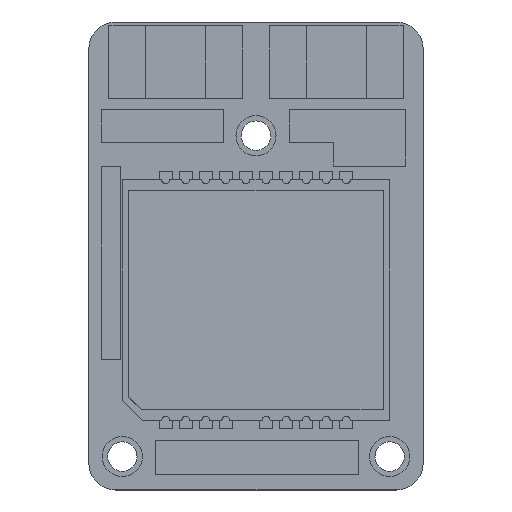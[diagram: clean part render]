
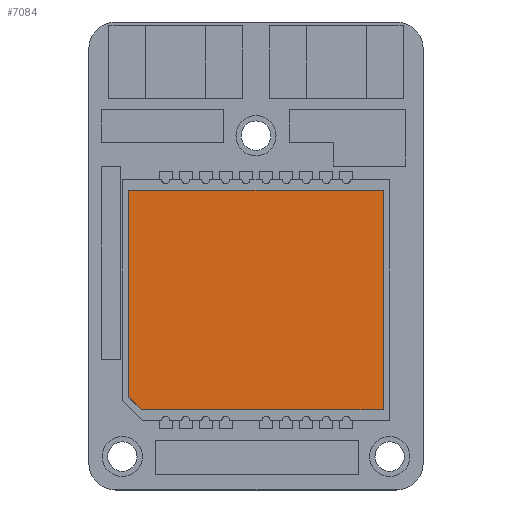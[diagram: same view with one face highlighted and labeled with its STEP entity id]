
A CAD part, top view. The second image highlights one B-rep face of the part: STEP entity #7084.
In plain terms, the highlighted planar face has unit normal (0, 0, 1).
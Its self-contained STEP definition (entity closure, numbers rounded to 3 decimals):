
#203 = CARTESIAN_POINT ( 'NONE',  ( -0.123, -2.615, 3.03 ) ) ;
#286 = CARTESIAN_POINT ( 'NONE',  ( -9.623, -10.815, 3.03 ) ) ;
#927 = VECTOR ( 'NONE', #8562, 1000. ) ;
#1135 = EDGE_LOOP ( 'NONE', ( #9945, #4745, #8568, #11177, #2551 ) ) ;
#1209 = DIRECTION ( 'NONE',  ( 1., 0., 0. ) ) ;
#1352 = PLANE ( 'NONE',  #8801 ) ;
#1924 = VERTEX_POINT ( 'NONE', #2919 ) ;
#2551 = ORIENTED_EDGE ( 'NONE', *, *, #8912, .F. ) ;
#2878 = VERTEX_POINT ( 'NONE', #203 ) ;
#2919 = CARTESIAN_POINT ( 'NONE',  ( -19.123, -18.056, 3.03 ) ) ;
#3225 = CARTESIAN_POINT ( 'NONE',  ( -18.165, -19.015, 3.03 ) ) ;
#3512 = VECTOR ( 'NONE', #8745, 1000. ) ;
#3639 = LINE ( 'NONE', #11325, #927 ) ;
#3649 = LINE ( 'NONE', #9767, #4519 ) ;
#3864 = VERTEX_POINT ( 'NONE', #10650 ) ;
#3893 = EDGE_CURVE ( 'NONE', #1924, #3864, #10900, .T. ) ;
#4364 = DIRECTION ( 'NONE',  ( 0., -1., 0. ) ) ;
#4519 = VECTOR ( 'NONE', #4364, 1000. ) ;
#4745 = ORIENTED_EDGE ( 'NONE', *, *, #11873, .T. ) ;
#4796 = CARTESIAN_POINT ( 'NONE',  ( -9.623, -2.615, 3.03 ) ) ;
#5001 = DIRECTION ( 'NONE',  ( 0., 0., 1. ) ) ;
#5740 = CARTESIAN_POINT ( 'NONE',  ( -0.123, -19.015, 3.03 ) ) ;
#5955 = CARTESIAN_POINT ( 'NONE',  ( -9.623, -19.015, 3.03 ) ) ;
#5965 = LINE ( 'NONE', #5955, #3512 ) ;
#6052 = EDGE_CURVE ( 'NONE', #7280, #6531, #5965, .T. ) ;
#6531 = VERTEX_POINT ( 'NONE', #5740 ) ;
#6937 = DIRECTION ( 'NONE',  ( 0., 1., 0. ) ) ;
#7084 = ADVANCED_FACE ( 'NONE', ( #7587 ), #1352, .T. ) ;
#7280 = VERTEX_POINT ( 'NONE', #3225 ) ;
#7298 = LINE ( 'NONE', #4796, #7315 ) ;
#7315 = VECTOR ( 'NONE', #1209, 1000. ) ;
#7587 = FACE_OUTER_BOUND ( 'NONE', #1135, .T. ) ;
#8286 = VECTOR ( 'NONE', #6937, 1000. ) ;
#8562 = DIRECTION ( 'NONE',  ( 0.707, -0.707, 0. ) ) ;
#8568 = ORIENTED_EDGE ( 'NONE', *, *, #6052, .T. ) ;
#8745 = DIRECTION ( 'NONE',  ( 1., 0., 0. ) ) ;
#8801 = AXIS2_PLACEMENT_3D ( 'NONE', #286, #5001, #11474 ) ;
#8912 = EDGE_CURVE ( 'NONE', #3864, #2878, #7298, .T. ) ;
#9767 = CARTESIAN_POINT ( 'NONE',  ( -0.123, -10.815, 3.03 ) ) ;
#9945 = ORIENTED_EDGE ( 'NONE', *, *, #3893, .F. ) ;
#10602 = CARTESIAN_POINT ( 'NONE',  ( -19.123, -10.815, 3.03 ) ) ;
#10650 = CARTESIAN_POINT ( 'NONE',  ( -19.123, -2.615, 3.03 ) ) ;
#10900 = LINE ( 'NONE', #10602, #8286 ) ;
#11028 = EDGE_CURVE ( 'NONE', #2878, #6531, #3649, .T. ) ;
#11177 = ORIENTED_EDGE ( 'NONE', *, *, #11028, .F. ) ;
#11325 = CARTESIAN_POINT ( 'NONE',  ( -17.994, -19.185, 3.03 ) ) ;
#11474 = DIRECTION ( 'NONE',  ( 0., 1., 0. ) ) ;
#11873 = EDGE_CURVE ( 'NONE', #1924, #7280, #3639, .T. ) ;
